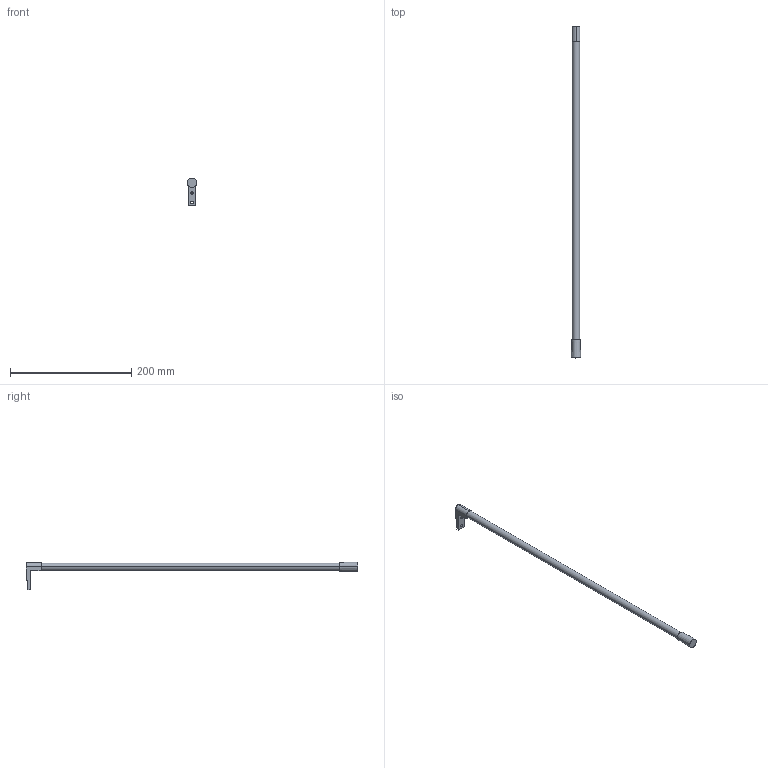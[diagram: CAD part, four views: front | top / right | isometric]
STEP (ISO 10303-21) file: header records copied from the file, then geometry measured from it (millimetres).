
FILE_DESCRIPTION (( 'STEP AP214' ), '1' );
FILE_NAME ('IMOS_Anschraubreling_Set_NL550.step', '2010-10-07T16:15:22', ( 'Grass' ), ( '' ), 'SwSTEP 2.0', 'SolidWorks 2010', '' );
FILE_SCHEMA (( 'AUTOMOTIVE_DESIGN' ));
Length unit declared in the file: millimetre
Products named in the file (1): IMOS_Anschraubreling_Set_NL550
Bounding box: 15.5 x 546.9 x 45.75 mm (x, y, z)
Volume: 66713.8 mm3; surface area: 22806.5 mm2
Topology: 1 solids, 1 shells, 24 faces, 57 edges, 38 vertices
Faces by surface type: plane 12, cylinder 10, cone 2
Entity records: 745 total; most frequent: DIRECTION 127, CARTESIAN_POINT 126, ORIENTED_EDGE 114, EDGE_CURVE 57, AXIS2_PLACEMENT_3D 47, VERTEX_POINT 38, LINE 33, VECTOR 33
